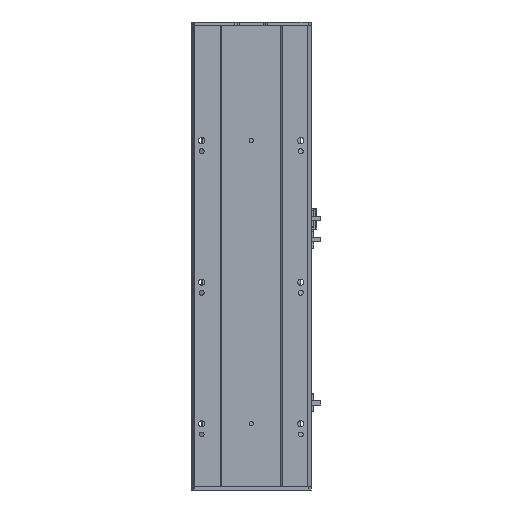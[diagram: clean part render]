
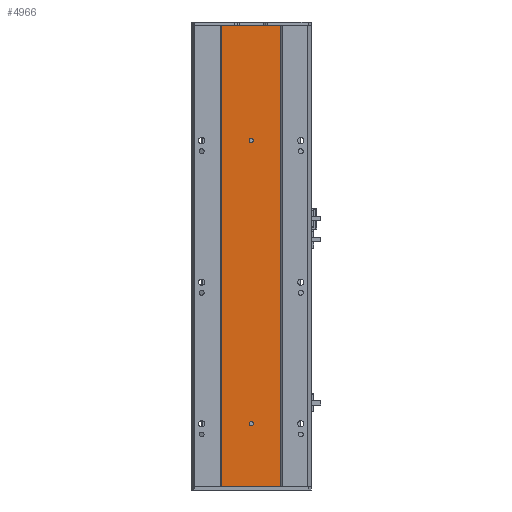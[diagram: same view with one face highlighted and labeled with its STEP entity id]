
A CAD part, front view. The second image highlights one B-rep face of the part: STEP entity #4966.
In plain terms, the highlighted planar face has unit normal (0, -1, 0).
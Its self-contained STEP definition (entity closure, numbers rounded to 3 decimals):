
#78 = CARTESIAN_POINT ( 'NONE',  ( 42.916, 2.57, 0. ) ) ;
#80 = CARTESIAN_POINT ( 'NONE',  ( 85., 2.57, 488.5 ) ) ;
#633 = CIRCLE ( 'NONE', #10893, 3. ) ;
#1173 = DIRECTION ( 'NONE',  ( -1., 0., 0. ) ) ;
#1219 = AXIS2_PLACEMENT_3D ( 'NONE', #2066, #18595, #7601 ) ;
#1559 = LINE ( 'NONE', #2197, #10171 ) ;
#1897 = DIRECTION ( 'NONE',  ( 0., 0., 1. ) ) ;
#2066 = CARTESIAN_POINT ( 'NONE',  ( 42.916, 2.57, 0. ) ) ;
#2117 = CIRCLE ( 'NONE', #7468, 3. ) ;
#2197 = CARTESIAN_POINT ( 'NONE',  ( 126.916, 2.57, 0. ) ) ;
#2774 = VERTEX_POINT ( 'NONE', #16230 ) ;
#3008 = FACE_BOUND ( 'NONE', #22746, .T. ) ;
#3094 = VERTEX_POINT ( 'NONE', #12936 ) ;
#3249 = CARTESIAN_POINT ( 'NONE',  ( 85., 2.57, 88.5 ) ) ;
#3293 = EDGE_LOOP ( 'NONE', ( #4554, #10905 ) ) ;
#4121 = VECTOR ( 'NONE', #22167, 1000. ) ;
#4475 = VERTEX_POINT ( 'NONE', #7937 ) ;
#4554 = ORIENTED_EDGE ( 'NONE', *, *, #9404, .T. ) ;
#4966 = ADVANCED_FACE ( 'NONE', ( #6744, #3008, #16530 ), #5763, .F. ) ;
#5086 = DIRECTION ( 'NONE',  ( 0., 0., 1. ) ) ;
#5668 = VERTEX_POINT ( 'NONE', #11533 ) ;
#5763 = PLANE ( 'NONE',  #1219 ) ;
#6622 = VECTOR ( 'NONE', #1173, 1000. ) ;
#6744 = FACE_BOUND ( 'NONE', #3293, .T. ) ;
#7468 = AXIS2_PLACEMENT_3D ( 'NONE', #18505, #7509, #20349 ) ;
#7502 = CARTESIAN_POINT ( 'NONE',  ( 42.916, 2.57, 0. ) ) ;
#7509 = DIRECTION ( 'NONE',  ( 0., 1., 0. ) ) ;
#7601 = DIRECTION ( 'NONE',  ( 0., 0., 1. ) ) ;
#7937 = CARTESIAN_POINT ( 'NONE',  ( 85., 2.57, 485.5 ) ) ;
#8175 = CARTESIAN_POINT ( 'NONE',  ( 42.916, 2.57, 651. ) ) ;
#8363 = AXIS2_PLACEMENT_3D ( 'NONE', #80, #12924, #1897 ) ;
#8460 = CARTESIAN_POINT ( 'NONE',  ( 42.916, 2.57, 651. ) ) ;
#8531 = ORIENTED_EDGE ( 'NONE', *, *, #14781, .F. ) ;
#9404 = EDGE_CURVE ( 'NONE', #3094, #5668, #633, .T. ) ;
#9869 = EDGE_CURVE ( 'NONE', #14845, #23516, #11522, .T. ) ;
#10171 = VECTOR ( 'NONE', #16900, 1000. ) ;
#10892 = DIRECTION ( 'NONE',  ( 0., 1., 0. ) ) ;
#10893 = AXIS2_PLACEMENT_3D ( 'NONE', #3249, #16100, #5086 ) ;
#10905 = ORIENTED_EDGE ( 'NONE', *, *, #19884, .T. ) ;
#10983 = DIRECTION ( 'NONE',  ( 0., 0., 1. ) ) ;
#11522 = LINE ( 'NONE', #8460, #6622 ) ;
#11533 = CARTESIAN_POINT ( 'NONE',  ( 85., 2.57, 91.5 ) ) ;
#12529 = ORIENTED_EDGE ( 'NONE', *, *, #9869, .T. ) ;
#12862 = CARTESIAN_POINT ( 'NONE',  ( 126.916, 2.57, 0. ) ) ;
#12924 = DIRECTION ( 'NONE',  ( 0., 1., 0. ) ) ;
#12936 = CARTESIAN_POINT ( 'NONE',  ( 85., 2.57, 85.5 ) ) ;
#12943 = CARTESIAN_POINT ( 'NONE',  ( 42.916, 2.57, 0. ) ) ;
#12967 = EDGE_CURVE ( 'NONE', #2774, #4475, #18817, .T. ) ;
#13787 = ORIENTED_EDGE ( 'NONE', *, *, #23270, .F. ) ;
#14781 = EDGE_CURVE ( 'NONE', #15335, #23516, #15573, .T. ) ;
#14812 = ORIENTED_EDGE ( 'NONE', *, *, #19971, .T. ) ;
#14845 = VERTEX_POINT ( 'NONE', #20361 ) ;
#15006 = VECTOR ( 'NONE', #10983, 1000. ) ;
#15335 = VERTEX_POINT ( 'NONE', #7502 ) ;
#15513 = VERTEX_POINT ( 'NONE', #12862 ) ;
#15573 = LINE ( 'NONE', #78, #15006 ) ;
#16100 = DIRECTION ( 'NONE',  ( 0., 1., 0. ) ) ;
#16230 = CARTESIAN_POINT ( 'NONE',  ( 85., 2.57, 491.5 ) ) ;
#16530 = FACE_OUTER_BOUND ( 'NONE', #16985, .T. ) ;
#16900 = DIRECTION ( 'NONE',  ( 0., 0., 1. ) ) ;
#16985 = EDGE_LOOP ( 'NONE', ( #12529, #8531, #13787, #14812 ) ) ;
#17336 = AXIS2_PLACEMENT_3D ( 'NONE', #21900, #10892, #23717 ) ;
#18505 = CARTESIAN_POINT ( 'NONE',  ( 85., 2.57, 88.5 ) ) ;
#18595 = DIRECTION ( 'NONE',  ( 0., 1., 0. ) ) ;
#18787 = LINE ( 'NONE', #12943, #4121 ) ;
#18817 = CIRCLE ( 'NONE', #8363, 3. ) ;
#19426 = CIRCLE ( 'NONE', #17336, 3. ) ;
#19884 = EDGE_CURVE ( 'NONE', #5668, #3094, #2117, .T. ) ;
#19971 = EDGE_CURVE ( 'NONE', #15513, #14845, #1559, .T. ) ;
#20349 = DIRECTION ( 'NONE',  ( 0., 0., 1. ) ) ;
#20361 = CARTESIAN_POINT ( 'NONE',  ( 126.916, 2.57, 651. ) ) ;
#20725 = ORIENTED_EDGE ( 'NONE', *, *, #22016, .T. ) ;
#21900 = CARTESIAN_POINT ( 'NONE',  ( 85., 2.57, 488.5 ) ) ;
#22016 = EDGE_CURVE ( 'NONE', #4475, #2774, #19426, .T. ) ;
#22167 = DIRECTION ( 'NONE',  ( -1., 0., 0. ) ) ;
#22686 = ORIENTED_EDGE ( 'NONE', *, *, #12967, .T. ) ;
#22746 = EDGE_LOOP ( 'NONE', ( #20725, #22686 ) ) ;
#23270 = EDGE_CURVE ( 'NONE', #15513, #15335, #18787, .T. ) ;
#23516 = VERTEX_POINT ( 'NONE', #8175 ) ;
#23717 = DIRECTION ( 'NONE',  ( 0., 0., 1. ) ) ;
